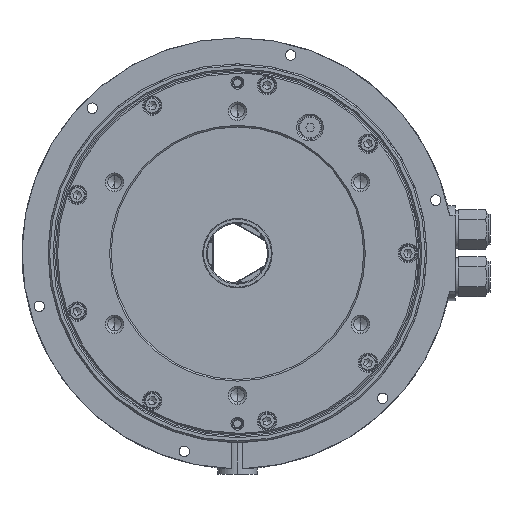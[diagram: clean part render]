
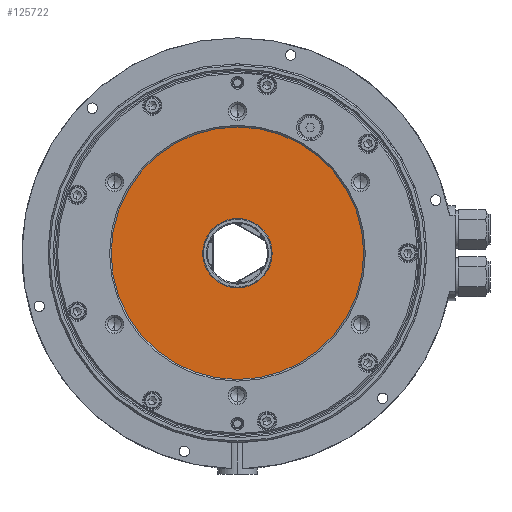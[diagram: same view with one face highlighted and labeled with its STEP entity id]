
A CAD part, left-side view. The second image highlights one B-rep face of the part: STEP entity #125722.
In plain terms, the highlighted planar face has unit normal (-1, 0, 0).
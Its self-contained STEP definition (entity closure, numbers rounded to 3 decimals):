
#592 = DIRECTION ( 'NONE',  ( 0., 0., 1. ) ) ;
#1926 = AXIS2_PLACEMENT_3D ( 'NONE', #100091, #19691, #121664 ) ;
#1996 = PLANE ( 'NONE',  #1926 ) ;
#2080 = ORIENTED_EDGE ( 'NONE', *, *, #11018, .F. ) ;
#8156 = EDGE_CURVE ( 'NONE', #76602, #18281, #16234, .T. ) ;
#10011 = ORIENTED_EDGE ( 'NONE', *, *, #126959, .F. ) ;
#11018 = EDGE_CURVE ( 'NONE', #42286, #84514, #98519, .T. ) ;
#11687 = DIRECTION ( 'NONE',  ( -1., 0., 0. ) ) ;
#16234 = CIRCLE ( 'NONE', #76763, 80. ) ;
#18281 = VERTEX_POINT ( 'NONE', #103849 ) ;
#19691 = DIRECTION ( 'NONE',  ( 1., 0., 0. ) ) ;
#21266 = AXIS2_PLACEMENT_3D ( 'NONE', #69880, #11687, #592 ) ;
#24344 = ORIENTED_EDGE ( 'NONE', *, *, #49520, .T. ) ;
#26151 = ORIENTED_EDGE ( 'NONE', *, *, #8156, .T. ) ;
#30613 = CARTESIAN_POINT ( 'NONE',  ( -7.5, 0., 0. ) ) ;
#34659 = CIRCLE ( 'NONE', #101472, 80. ) ;
#39285 = FACE_OUTER_BOUND ( 'NONE', #90412, .T. ) ;
#39704 = AXIS2_PLACEMENT_3D ( 'NONE', #70434, #109051, #128696 ) ;
#42286 = VERTEX_POINT ( 'NONE', #120709 ) ;
#45376 = CARTESIAN_POINT ( 'NONE',  ( -7.5, 0., 0. ) ) ;
#49520 = EDGE_CURVE ( 'NONE', #18281, #76602, #34659, .T. ) ;
#69880 = CARTESIAN_POINT ( 'NONE',  ( -7.5, 0., 0. ) ) ;
#70434 = CARTESIAN_POINT ( 'NONE',  ( -7.5, 0., 0. ) ) ;
#76602 = VERTEX_POINT ( 'NONE', #101528 ) ;
#76763 = AXIS2_PLACEMENT_3D ( 'NONE', #45376, #103594, #93768 ) ;
#78359 = DIRECTION ( 'NONE',  ( 0., 0., 1. ) ) ;
#84514 = VERTEX_POINT ( 'NONE', #116324 ) ;
#90412 = EDGE_LOOP ( 'NONE', ( #24344, #26151 ) ) ;
#91558 = FACE_BOUND ( 'NONE', #125437, .T. ) ;
#93768 = DIRECTION ( 'NONE',  ( 0., 0., 1. ) ) ;
#96108 = CIRCLE ( 'NONE', #39704, 22. ) ;
#98519 = CIRCLE ( 'NONE', #21266, 22. ) ;
#100091 = CARTESIAN_POINT ( 'NONE',  ( -7.5, 22., 0. ) ) ;
#101472 = AXIS2_PLACEMENT_3D ( 'NONE', #30613, #110350, #78359 ) ;
#101528 = CARTESIAN_POINT ( 'NONE',  ( -7.5, 0., -80. ) ) ;
#103594 = DIRECTION ( 'NONE',  ( -1., 0., 0. ) ) ;
#103849 = CARTESIAN_POINT ( 'NONE',  ( -7.5, 0., 80. ) ) ;
#109051 = DIRECTION ( 'NONE',  ( -1., 0., 0. ) ) ;
#110350 = DIRECTION ( 'NONE',  ( -1., 0., 0. ) ) ;
#116324 = CARTESIAN_POINT ( 'NONE',  ( -7.5, 0., 22. ) ) ;
#120709 = CARTESIAN_POINT ( 'NONE',  ( -7.5, 0., -22. ) ) ;
#121664 = DIRECTION ( 'NONE',  ( 0., 0., -1. ) ) ;
#125437 = EDGE_LOOP ( 'NONE', ( #10011, #2080 ) ) ;
#125722 = ADVANCED_FACE ( 'NONE', ( #91558, #39285 ), #1996, .F. ) ;
#126959 = EDGE_CURVE ( 'NONE', #84514, #42286, #96108, .T. ) ;
#128696 = DIRECTION ( 'NONE',  ( 0., 0., 1. ) ) ;
